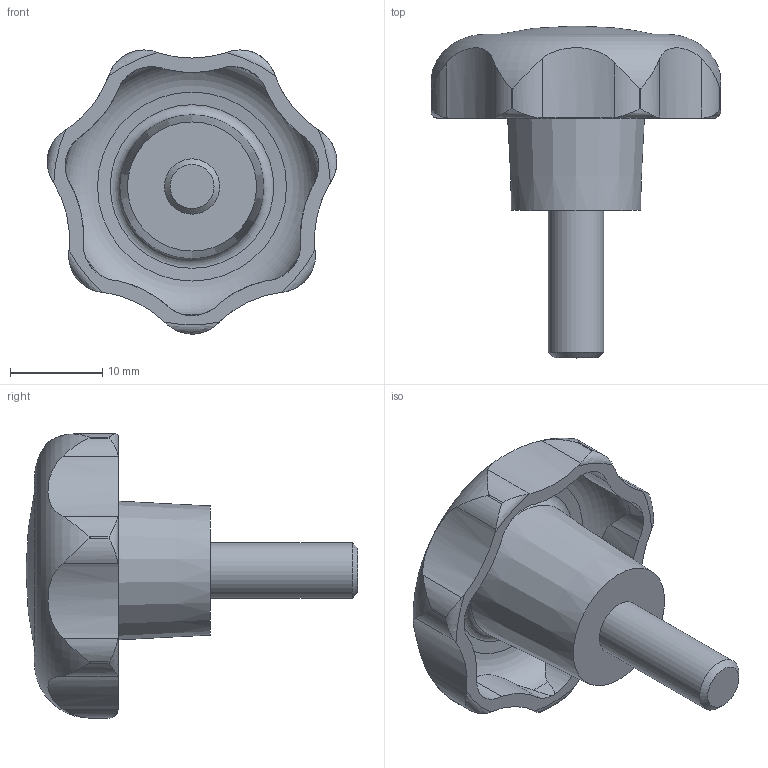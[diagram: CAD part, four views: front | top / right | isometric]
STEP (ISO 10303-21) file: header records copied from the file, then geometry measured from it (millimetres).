
FILE_DESCRIPTION( ( 'STEP AP203' ), '1' );
FILE_NAME( 'C:/Temp/Ganter_Step_05_03_2020/data/2_2/gn_6336_4/gn_6336_4_st/Star knob GN 6336.4-ST-32-M6-16.stp', '2020-03-05T12:07:20', ( 'License CC BY-ND 4.0' ), ( 'CADENAS' ), ' ', 'PARTsolutions', ' ' );
FILE_SCHEMA( ( 'CONFIG_CONTROL_DESIGN' ) );
Length unit declared in the file: millimetre
Products named in the file (1): _Star knob GN 6336.4-ST-32-M6-16
Bounding box: 31.4 x 36 x 30.81 mm (x, y, z)
Volume: 6254.3 mm3; surface area: 3477.7 mm2
Topology: 1 solids, 1 shells, 74 faces, 209 edges, 138 vertices
Faces by surface type: cylinder 50, torus 10, cone 10, plane 3, sphere 1
Full cylindrical faces by diameter (mm): 6 x1
Entity records: 3221 total; most frequent: CARTESIAN_POINT 1406, ORIENTED_EDGE 394, DIRECTION 336, EDGE_CURVE 197, AXIS2_PLACEMENT_3D 147, VERTEX_POINT 136, EDGE_LOOP 83, B_SPLINE_CURVE_WITH_KNOTS 83
